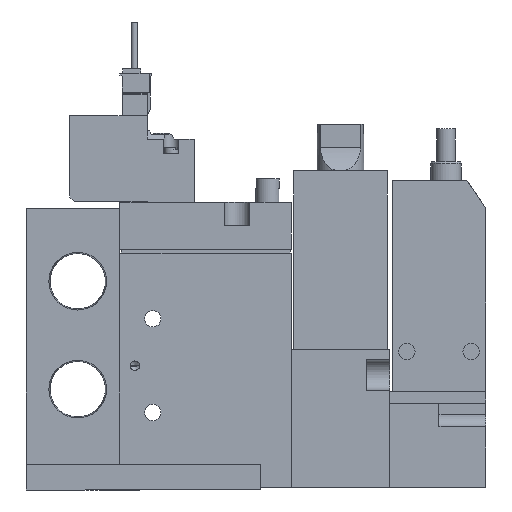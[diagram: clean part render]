
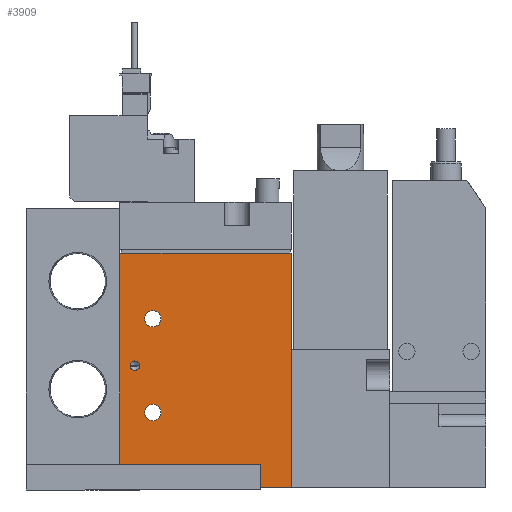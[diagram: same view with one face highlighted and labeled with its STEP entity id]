
A CAD part, left-side view. The second image highlights one B-rep face of the part: STEP entity #3909.
In plain terms, the highlighted planar face has unit normal (-1, 0, 0) as drawn and (1, 0, 0) by its records, which use the part's own axes.
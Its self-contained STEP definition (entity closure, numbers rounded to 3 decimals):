
#3909=ADVANCED_FACE('',(#6049,#6050,#6051,#6052),#6053,.F.);
#6049=FACE_BOUND('',#10376,.T.);
#6050=FACE_BOUND('',#10377,.T.);
#6051=FACE_BOUND('',#10378,.T.);
#6052=FACE_OUTER_BOUND('',#10379,.T.);
#6053=PLANE('',#10380);
#10376=EDGE_LOOP('',(#15450));
#10377=EDGE_LOOP('',(#15451));
#10378=EDGE_LOOP('',(#15452));
#10379=EDGE_LOOP('',(#15453,#15454,#15455,#15456));
#10380=AXIS2_PLACEMENT_3D('',#15457,#15458,#15459);
#15450=ORIENTED_EDGE('',*,*,#29439,.F.);
#15451=ORIENTED_EDGE('',*,*,#29440,.T.);
#15452=ORIENTED_EDGE('',*,*,#29441,.T.);
#15453=ORIENTED_EDGE('',*,*,#29442,.T.);
#15454=ORIENTED_EDGE('',*,*,#29443,.F.);
#15455=ORIENTED_EDGE('',*,*,#29444,.F.);
#15456=ORIENTED_EDGE('',*,*,#29432,.T.);
#15457=CARTESIAN_POINT('',(8.5,-19.444,50.0));
#15458=DIRECTION('',(-1.0,0.0,0.0));
#15459=DIRECTION('',(0.0,0.0,1.0));
#29432=EDGE_CURVE('',#34243,#34241,#34244,.T.);
#29439=EDGE_CURVE('',#34252,#34252,#34253,.T.);
#29440=EDGE_CURVE('',#34254,#34254,#34255,.T.);
#29441=EDGE_CURVE('',#34256,#34256,#34257,.T.);
#29442=EDGE_CURVE('',#34241,#34258,#34259,.T.);
#29443=EDGE_CURVE('',#34260,#34258,#34261,.T.);
#29444=EDGE_CURVE('',#34243,#34260,#34262,.T.);
#34241=VERTEX_POINT('',#42473);
#34243=VERTEX_POINT('',#42476);
#34244=LINE('',#42477,#42478);
#34252=VERTEX_POINT('',#42487);
#34253=CIRCLE('',#42488,1.0);
#34254=VERTEX_POINT('',#42489);
#34255=CIRCLE('',#42490,1.75);
#34256=VERTEX_POINT('',#42491);
#34257=CIRCLE('',#42492,1.75);
#34258=VERTEX_POINT('',#42493);
#34259=LINE('',#42494,#42495);
#34260=VERTEX_POINT('',#42496);
#34261=LINE('',#42497,#42498);
#34262=LINE('',#42499,#42500);
#42473=CARTESIAN_POINT('',(8.5,-19.444,0.0));
#42476=CARTESIAN_POINT('',(8.5,-19.444,50.0));
#42477=CARTESIAN_POINT('',(8.5,-19.444,50.0));
#42478=VECTOR('',#53666,1.0);
#42487=CARTESIAN_POINT('',(8.5,-17.244,26.0));
#42488=AXIS2_PLACEMENT_3D('',#53677,#53678,#53679);
#42489=CARTESIAN_POINT('',(8.5,-10.694,36.0));
#42490=AXIS2_PLACEMENT_3D('',#53680,#53681,#53682);
#42491=CARTESIAN_POINT('',(8.5,-10.694,16.0));
#42492=AXIS2_PLACEMENT_3D('',#53683,#53684,#53685);
#42493=CARTESIAN_POINT('',(8.5,17.056,0.0));
#42494=CARTESIAN_POINT('',(8.5,-19.444,0.0));
#42495=VECTOR('',#53686,1.0);
#42496=CARTESIAN_POINT('',(8.5,17.056,50.0));
#42497=CARTESIAN_POINT('',(8.5,17.056,50.0));
#42498=VECTOR('',#53687,1.0);
#42499=CARTESIAN_POINT('',(8.5,-19.444,50.0));
#42500=VECTOR('',#53688,1.0);
#53666=DIRECTION('',(0.0,0.0,-1.0));
#53677=CARTESIAN_POINT('',(8.5,-16.244,26.0));
#53678=DIRECTION('',(1.0,0.,0.0));
#53679=DIRECTION('',(0.,-1.0,0.0));
#53680=CARTESIAN_POINT('',(8.5,-12.444,36.0));
#53681=DIRECTION('',(-1.0,0.0,0.0));
#53682=DIRECTION('',(0.0,1.0,0.0));
#53683=CARTESIAN_POINT('',(8.5,-12.444,16.0));
#53684=DIRECTION('',(-1.0,0.0,0.0));
#53685=DIRECTION('',(0.0,1.0,0.0));
#53686=DIRECTION('',(0.0,1.0,0.0));
#53687=DIRECTION('',(0.0,0.0,-1.0));
#53688=DIRECTION('',(0.0,1.0,0.0));
